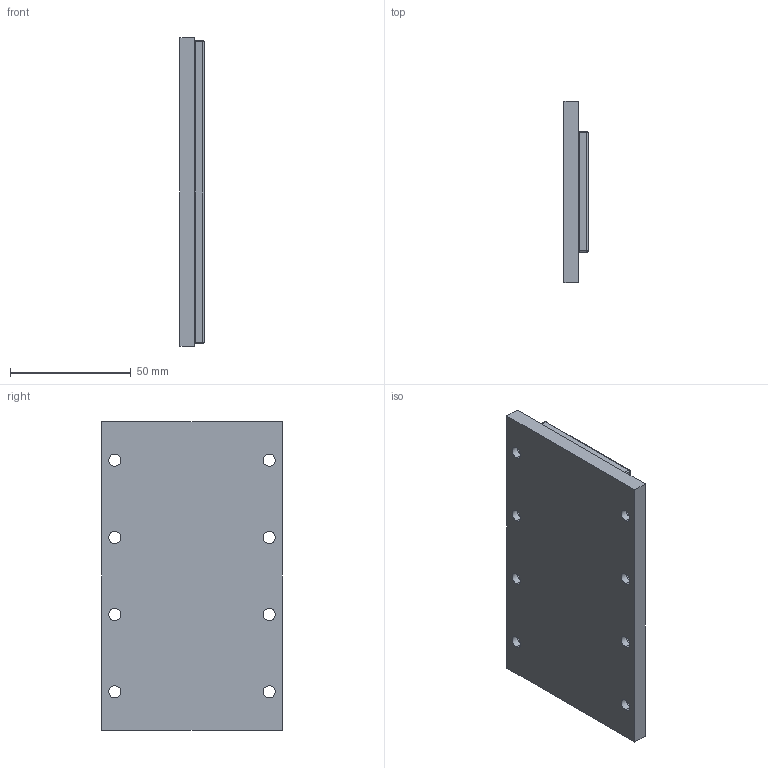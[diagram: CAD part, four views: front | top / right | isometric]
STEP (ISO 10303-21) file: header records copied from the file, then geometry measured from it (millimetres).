
FILE_DESCRIPTION (( 'STEP AP214' ), '1' );
FILE_NAME ('PIXM050-TL128-NC.STEP', '2020-07-30T01:54:09', ( '' ), ( '' ), 'SwSTEP 2.0', 'SolidWorks 2016', '' );
FILE_SCHEMA (( 'AUTOMOTIVE_DESIGN' ));
Length unit declared in the file: inch
Products named in the file (3): 001SM050LXXX01_TL128; PIXM050-TL128-NC; 001SM050000001-CUSTOMER_TL128
Assembly tree (2 placements, depth 2):
  PIXM050-TL128-NC
    001SM050LXXX01_TL128
    001SM050000001-CUSTOMER_TL128
Bounding box: 10 x 75 x 128 mm (x, y, z)
Volume: 80827.9 mm3; surface area: 36143.4 mm2
Topology: 2 solids, 2 shells, 83 faces, 194 edges, 116 vertices
Faces by surface type: cylinder 44, plane 31, bspline 8
Entity records: 3639 total; most frequent: CARTESIAN_POINT 510, DIRECTION 434, ORIENTED_EDGE 372, EDGE_CURVE 186, AXIS2_PLACEMENT_3D 168, VERTEX_POINT 116, EDGE_LOOP 108, VECTOR 98
